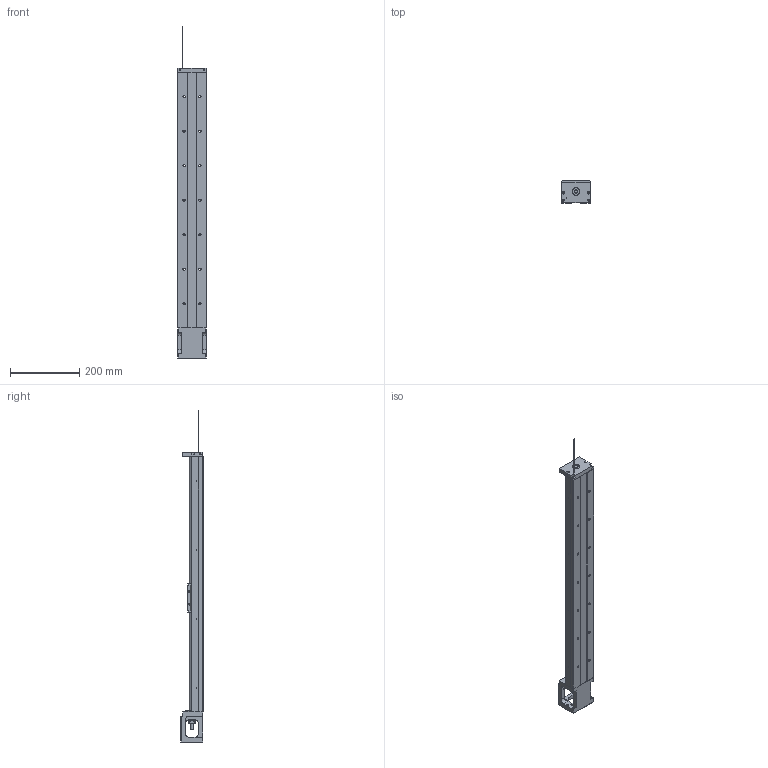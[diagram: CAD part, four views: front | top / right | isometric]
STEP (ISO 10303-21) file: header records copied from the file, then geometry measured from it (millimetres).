
FILE_DESCRIPTION(/* description */ (''),/* implementation_level */ '2;1');
FILE_NAME(/* name */ 'KP46S-740.stp',/* time_stamp */ '2020-06-05T10:42:55+08:00',/* author */ (''),/* organization */ (''),/* preprocessor_version */ 'ST-DEVELOPER v14',/* originating_system */ 'SIEMENS PLM Software NX 8.0',/* authorisation */ '');
FILE_SCHEMA (('AUTOMOTIVE_DESIGN { 1 0 10303 214 3 1 1 1 }'));
Length unit declared in the file: millimetre
Products named in the file (1): model1
Bounding box: 86 x 64 x 961.7 mm (x, y, z)
Volume: 1626553.9 mm3; surface area: 357956.2 mm2
Topology: 5 solids, 16 shells, 641 faces, 1694 edges, 1118 vertices
Faces by surface type: plane 288, cylinder 236, cone 59, bspline 50, torus 8
Full cylindrical faces by diameter (mm): 2 x2, 2.11 x2, 2.15 x8, 2.42 x6, 3 x4, 3.2 x4, 3.3 x8, 3.4 x8, 4 x2, 4.2 x4, 4.5 x8, 5 x6, 6 x8, 6.35 x2, 6.6 x14, 6.7 x2, 8 x1, 8.7 x4, 9.6 x1, 10 x3, 11 x14, 12 x1, 14.95 x2, 15 x1, 16 x2, 22 x3, 27.5 x1, 44 x1, 50 x1
Entity records: 29953 total; most frequent: CARTESIAN_POINT 12925, ORIENTED_EDGE 2890, DIRECTION 2768, EDGE_CURVE 1445, AXIS2_PLACEMENT_3D 1045, VERTEX_POINT 1044, EDGE_LOOP 913, LINE 678
